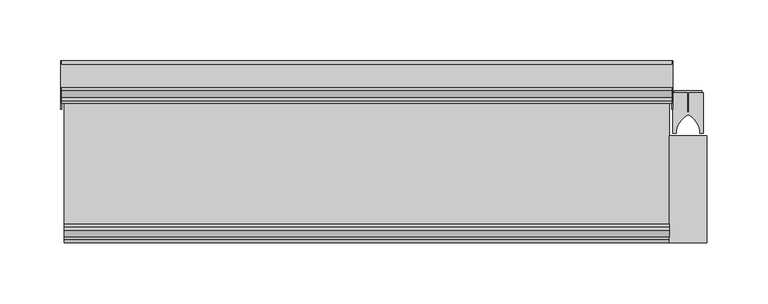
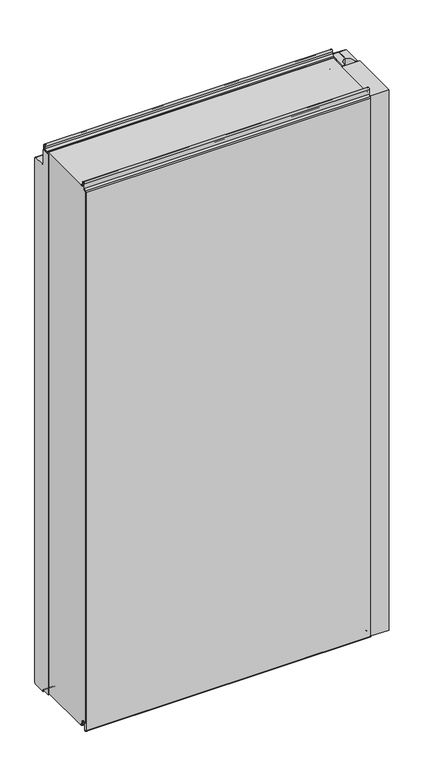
"""IFC4 building model written with IfcOpenShell, lengths in millimetres: plate geometry, Fronttop : Fronttop 150/1000."""

from ifc_helpers import new_model, si_unit, point, frame, frame_2d, origin, origin_with_axes, place, context, project, spatial, polyline, circle_curve, trimmed, segment, composite_curve, outline, extrude, source, transform, mapped, element, save
from ifc_brep_helpers import plane_surface, cylinder_surface, revolved_surface, advanced_brep


def plate_d80518ba(model_context):
    return source(origin(), model_context, "Body", "SolidModel", [
        advanced_brep(
        [(-251.5, 124.0, 1008.0), (-251.5, 121.0, 1008.0), (-251.5, 121.0, 1004.0), (-251.5, 117.0, 1000.0), (-251.5, 115.0, 1000.0), (-251.5, 115.0, 1001.0), (-251.5, 117.0, 1001.0), (-251.5, 120.0, 1004.0), (-251.5, 120.0, 1008.0), (-251.5, 125.0, 1008.0), (-251.5, 125.0, 1000.0), (-251.5, 124.0, 1000.0), (251.5, 125.0, 1008.0), (251.5, 120.0, 1008.0), (251.5, 120.0, 1004.0), (251.5, 117.0, 1001.0), (251.5, 115.0, 1001.0), (251.5, 115.0, 1000.0), (251.5, 117.0, 1000.0), (251.5, 121.0, 1004.0), (251.5, 121.0, 1008.0), (251.5, 124.0, 1008.0), (251.5, 124.0, 1000.0), (251.5, 125.0, 1000.0), (-251.5, 117.0, 2.0), (251.5, 117.0, 2.0), (251.5, 115.0, 2.0), (-251.5, 115.0, 2.0), (-251.5, 119.0, 4.0), (251.5, 119.0, 4.0), (-251.5, 119.0, 8.0), (251.5, 119.0, 8.0), (-251.5, 126.0, 8.0), (251.5, 126.0, 8.0), (-251.5, 126.0, 0.0), (251.5, 126.0, 0.0), (-251.5, 129.0, -3.0), (251.5, 129.0, -3.0), (-251.5, 125.0, -3.0), (-252.5, 125.0, -3.0), (-252.5, 147.0, -3.0), (-251.5, 147.0, -3.0), (251.5, 147.0, -3.0), (252.5, 147.0, -3.0), (252.5, 125.0, -3.0), (251.5, 125.0, -3.0), (-251.5, 150.0, 0.0), (251.5, 150.0, 0.0), (-252.5, 150.0, 0.0), (-252.5, 150.0, 969.0), (-251.5, 150.0, 969.0), (251.5, 150.0, 969.0), (252.5, 150.0, 969.0), (252.5, 150.0, 0.0), (-251.5, 147.0, 972.0), (251.5, 147.0, 972.0), (-252.5, 147.0, 972.0), (-252.5, 128.0, 972.0), (-251.5, 128.0, 972.0), (251.5, 128.0, 972.0), (252.5, 128.0, 972.0), (252.5, 147.0, 972.0), (-251.5, 125.0, 975.0), (251.5, 125.0, 975.0), (-252.5, 125.0, 975.0), (-252.5, 125.0, 1000.0), (252.5, 125.0, 1000.0), (252.5, 125.0, 975.0), (-251.5, 124.0, 975.0), (251.5, 124.0, 975.0), (-251.5, 128.0, 971.0), (251.5, 128.0, 971.0), (-251.5, 147.0, 971.0), (251.5, 147.0, 971.0), (-251.5, 149.0, 969.0), (251.5, 149.0, 969.0), (-251.5, 149.0, 0.0), (251.5, 149.0, 0.0), (-251.5, 147.0, -2.0), (251.5, 147.0, -2.0), (-251.5, 129.0, -2.0), (251.5, 129.0, -2.0), (-251.5, 127.0, 0.0), (251.5, 127.0, 0.0), (-251.5, 127.0, 8.0), (251.5, 127.0, 8.0), (-251.5, 118.0, 8.0), (251.5, 118.0, 8.0), (-251.5, 118.0, 4.0), (251.5, 118.0, 4.0), (-251.5, 117.0, 3.0), (251.5, 117.0, 3.0), (-251.5, 115.0, 3.0), (251.5, 115.0, 3.0), (252.5, 110.0, 1000.0), (252.5, 110.0, 0.0), (252.5, 125.0, 0.0), (251.5, 125.0, 0.0), (251.5, 110.0, 0.0), (251.5, 110.0, 1000.0), (-252.5, 125.0, 0.0), (-252.5, 110.0, 0.0), (-252.5, 110.0, 1000.0), (-251.5, 110.0, 1000.0), (-251.5, 110.0, 0.0), (-251.5, 125.0, 0.0)],
        [
            (0, 1, circle_curve(frame((-251.5, 122.5, 1008.0), z_axis=(1.0, 0.0, 0.0), x_axis=(0.0, -1.0, 0.0)), 1.5)),
            (1, 2),
            (2, 3, circle_curve(frame((-251.5, 117.0, 1004.0), z_axis=(-1.0, 0.0, 0.0), x_axis=(0.0, -1.0, 0.0)), 4.0)),
            (3, 4),
            (4, 5),
            (5, 6),
            (6, 7, circle_curve(frame((-251.5, 117.0, 1004.0), z_axis=(1.0, 0.0, 0.0), x_axis=(0.0, -1.0, 0.0)), 3.0)),
            (7, 8),
            (8, 9, circle_curve(frame((-251.5, 122.5, 1008.0), z_axis=(-1.0, 0.0, 0.0), x_axis=(0.0, -1.0, 0.0)), 2.5)),
            (9, 10),
            (10, 11),
            (11, 0),
            (12, 13, circle_curve(frame((251.5, 122.5, 1008.0), z_axis=(1.0, 0.0, 0.0), x_axis=(0.0, -1.0, 0.0)), 2.5)),
            (13, 14),
            (14, 15, circle_curve(frame((251.5, 117.0, 1004.0), z_axis=(-1.0, 0.0, 0.0), x_axis=(0.0, -1.0, 0.0)), 3.0)),
            (15, 16),
            (16, 17),
            (17, 18),
            (18, 19, circle_curve(frame((251.5, 117.0, 1004.0), z_axis=(1.0, 0.0, 0.0), x_axis=(0.0, -1.0, 0.0)), 4.0)),
            (19, 20),
            (20, 21, circle_curve(frame((251.5, 122.5, 1008.0), z_axis=(-1.0, 0.0, 0.0), x_axis=(0.0, -1.0, 0.0)), 1.5)),
            (21, 22),
            (22, 23),
            (23, 12),
            (24, 25),
            (25, 26),
            (26, 27),
            (27, 24),
            (24, 28, circle_curve(frame((-251.5, 117.0, 4.0), z_axis=(1.0, 0.0, 0.0), x_axis=(0.0, -1.0, 0.0)), 2.0)),
            (28, 29),
            (29, 25, circle_curve(frame((251.5, 117.0, 4.0), z_axis=(-1.0, 0.0, 0.0), x_axis=(0.0, -1.0, 0.0)), 2.0)),
            (28, 30),
            (30, 31),
            (31, 29),
            (30, 32, circle_curve(frame((-251.5, 122.5, 8.0), z_axis=(-1.0, 0.0, 0.0), x_axis=(0.0, -1.0, 0.0)), 3.5)),
            (32, 33),
            (33, 31, circle_curve(frame((251.5, 122.5, 8.0), z_axis=(1.0, 0.0, 0.0), x_axis=(0.0, -1.0, 0.0)), 3.5)),
            (32, 34),
            (34, 35),
            (35, 33),
            (34, 36, circle_curve(frame((-251.5, 129.0, 0.0), z_axis=(1.0, 0.0, 0.0), x_axis=(0.0, -1.0, 0.0)), 3.0)),
            (36, 37),
            (37, 35, circle_curve(frame((251.5, 129.0, 0.0), z_axis=(-1.0, 0.0, 0.0), x_axis=(0.0, -1.0, 0.0)), 3.0)),
            (36, 38),
            (38, 39),
            (39, 40),
            (40, 41),
            (41, 42),
            (42, 43),
            (43, 44),
            (44, 45),
            (45, 37),
            (41, 46, circle_curve(frame((-251.5, 147.0, 0.0), z_axis=(1.0, 0.0, 0.0), x_axis=(0.0, -1.0, 0.0)), 3.0)),
            (46, 47),
            (47, 42, circle_curve(frame((251.5, 147.0, 0.0), z_axis=(-1.0, 0.0, 0.0), x_axis=(0.0, -1.0, 0.0)), 3.0)),
            (46, 48),
            (48, 49),
            (49, 50),
            (50, 51),
            (51, 52),
            (52, 53),
            (53, 47),
            (50, 54, circle_curve(frame((-251.5, 147.0, 969.0), z_axis=(1.0, 0.0, 0.0), x_axis=(0.0, -1.0, 0.0)), 3.0)),
            (54, 55),
            (55, 51, circle_curve(frame((251.5, 147.0, 969.0), z_axis=(-1.0, 0.0, 0.0), x_axis=(0.0, -1.0, 0.0)), 3.0)),
            (54, 56),
            (56, 57),
            (57, 58),
            (58, 59),
            (59, 60),
            (60, 61),
            (61, 55),
            (58, 62, circle_curve(frame((-251.5, 128.0, 975.0), z_axis=(-1.0, 0.0, 0.0), x_axis=(0.0, -1.0, 0.0)), 3.0)),
            (62, 63),
            (63, 59, circle_curve(frame((251.5, 128.0, 975.0), z_axis=(1.0, 0.0, 0.0), x_axis=(0.0, -1.0, 0.0)), 3.0)),
            (62, 64),
            (64, 65),
            (65, 10),
            (9, 12),
            (23, 66),
            (66, 67),
            (67, 63),
            (8, 13),
            (7, 14),
            (6, 15),
            (5, 16),
            (4, 17),
            (4, 3),
            (3, 18),
            (18, 17),
            (2, 19),
            (1, 20),
            (0, 21),
            (11, 68),
            (68, 69),
            (69, 22),
            (68, 70, circle_curve(frame((-251.5, 128.0, 975.0), z_axis=(1.0, 0.0, 0.0), x_axis=(0.0, -1.0, 0.0)), 4.0)),
            (70, 71),
            (71, 69, circle_curve(frame((251.5, 128.0, 975.0), z_axis=(-1.0, 0.0, 0.0), x_axis=(0.0, -1.0, 0.0)), 4.0)),
            (70, 72),
            (72, 73),
            (73, 71),
            (72, 74, circle_curve(frame((-251.5, 147.0, 969.0), z_axis=(-1.0, 0.0, 0.0), x_axis=(0.0, -1.0, 0.0)), 2.0)),
            (74, 75),
            (75, 73, circle_curve(frame((251.5, 147.0, 969.0), z_axis=(1.0, 0.0, 0.0), x_axis=(0.0, -1.0, 0.0)), 2.0)),
            (74, 76),
            (76, 77),
            (77, 75),
            (76, 78, circle_curve(frame((-251.5, 147.0, 0.0), z_axis=(-1.0, 0.0, 0.0), x_axis=(0.0, -1.0, 0.0)), 2.0)),
            (78, 79),
            (79, 77, circle_curve(frame((251.5, 147.0, 0.0), z_axis=(1.0, 0.0, 0.0), x_axis=(0.0, -1.0, 0.0)), 2.0)),
            (78, 80),
            (80, 81),
            (81, 79),
            (80, 82, circle_curve(frame((-251.5, 129.0, 0.0), z_axis=(-1.0, 0.0, 0.0), x_axis=(0.0, -1.0, 0.0)), 2.0)),
            (82, 83),
            (83, 81, circle_curve(frame((251.5, 129.0, 0.0), z_axis=(1.0, 0.0, 0.0), x_axis=(0.0, -1.0, 0.0)), 2.0)),
            (82, 84),
            (84, 85),
            (85, 83),
            (84, 86, circle_curve(frame((-251.5, 122.5, 8.0), z_axis=(1.0, 0.0, 0.0), x_axis=(0.0, -1.0, 0.0)), 4.5)),
            (86, 87),
            (87, 85, circle_curve(frame((251.5, 122.5, 8.0), z_axis=(-1.0, 0.0, 0.0), x_axis=(0.0, -1.0, 0.0)), 4.5)),
            (86, 88),
            (88, 89),
            (89, 87),
            (88, 90, circle_curve(frame((-251.5, 117.0, 4.0), z_axis=(-1.0, 0.0, 0.0), x_axis=(0.0, -1.0, 0.0)), 1.0)),
            (90, 91),
            (91, 89, circle_curve(frame((251.5, 117.0, 4.0), z_axis=(1.0, 0.0, 0.0), x_axis=(0.0, -1.0, 0.0)), 1.0)),
            (90, 92),
            (92, 93),
            (93, 91),
            (26, 93),
            (92, 27),
            (66, 94),
            (94, 95),
            (95, 96),
            (96, 44),
            (43, 53, circle_curve(frame((252.5, 147.0, 0.0), z_axis=(1.0, 0.0, 0.0), x_axis=(0.0, 1.0, 0.0)), 3.0)),
            (52, 61, circle_curve(frame((252.5, 147.0, 969.0), z_axis=(1.0, 0.0, 0.0), x_axis=(0.0, 1.0, 0.0)), 3.0)),
            (60, 67, circle_curve(frame((252.5, 128.0, 975.0), z_axis=(-1.0, 0.0, 0.0), x_axis=(0.0, 1.0, 0.0)), 3.0)),
            (45, 97),
            (97, 98),
            (98, 99),
            (99, 17),
            (18, 22),
            (99, 94),
            (98, 95),
            (97, 96),
            (64, 57, circle_curve(frame((-252.5, 128.0, 975.0), z_axis=(1.0, 0.0, 0.0), x_axis=(0.0, 1.0, 0.0)), 3.0)),
            (56, 49, circle_curve(frame((-252.5, 147.0, 969.0), z_axis=(-1.0, 0.0, 0.0), x_axis=(0.0, 1.0, 0.0)), 3.0)),
            (48, 40, circle_curve(frame((-252.5, 147.0, 0.0), z_axis=(-1.0, 0.0, 0.0), x_axis=(0.0, 1.0, 0.0)), 3.0)),
            (39, 100),
            (100, 101),
            (101, 102),
            (102, 65),
            (103, 104),
            (104, 105),
            (105, 38),
            (11, 3),
            (4, 103),
            (102, 103),
            (101, 104),
            (100, 105),
        ],
        [
            plane_surface(frame((-251.5, 0.0, 0.0), z_axis=(-1.0, 0.0, 0.0), x_axis=(0.0, 0.0, 1.0))),
            plane_surface(frame((251.5, 0.0, 0.0), z_axis=(1.0, 0.0, 0.0), x_axis=(0.0, 0.0, 1.0))),
            plane_surface(frame((-251.5, 117.0, 2.0), z_axis=(0.0, 0.0, -1.0), x_axis=(1.0, 0.0, 0.0))),
            cylinder_surface(frame((-251.5, 117.0, 4.0), z_axis=(-1.0, 0.0, 0.0), x_axis=(0.0, -1.0, 0.0)), 2.0),
            plane_surface(frame((-251.5, 119.0, 8.0), z_axis=(0.0, 1.0, 0.0), x_axis=(1.0, 0.0, 0.0))),
            revolved_surface(polyline([(251.5, 119.0, 8.0), (-251.5, 119.0, 8.0)]), (-251.5, 122.5, 8.0), (1.0, 0.0, 0.0)),
            plane_surface(frame((-251.5, 126.0, 0.0), z_axis=(0.0, -1.0, 0.0), x_axis=(1.0, 0.0, 0.0))),
            cylinder_surface(frame((-251.5, 129.0, 0.0), z_axis=(-1.0, 0.0, 0.0), x_axis=(0.0, -1.0, 0.0)), 3.0),
            plane_surface(frame((-251.5, 147.0, -3.0), z_axis=(0.0, 0.0, -1.0), x_axis=(1.0, 0.0, 0.0))),
            cylinder_surface(frame((-251.5, 147.0, 0.0), z_axis=(-1.0, 0.0, 0.0), x_axis=(0.0, -1.0, 0.0)), 3.0),
            plane_surface(frame((-251.5, 150.0, 969.0), z_axis=(0.0, 1.0, 0.0), x_axis=(1.0, 0.0, 0.0))),
            cylinder_surface(frame((-251.5, 147.0, 969.0), z_axis=(-1.0, 0.0, 0.0), x_axis=(0.0, -1.0, 0.0)), 3.0),
            plane_surface(frame((-251.5, 128.0, 972.0), z_axis=(0.0, 0.0, 1.0), x_axis=(1.0, 0.0, 0.0))),
            revolved_surface(polyline([(251.5, 125.0, 975.0), (-251.5, 125.0, 975.0)]), (-251.5, 128.0, 975.0), (1.0, 0.0, 0.0)),
            plane_surface(frame((-251.5, 125.0, 1008.0), z_axis=(0.0, 1.0, 0.0), x_axis=(1.0, 0.0, 0.0))),
            cylinder_surface(frame((-251.5, 122.5, 1008.0), z_axis=(-1.0, 0.0, 0.0), x_axis=(0.0, -1.0, 0.0)), 2.5),
            plane_surface(frame((-251.5, 120.0, 1004.0), z_axis=(0.0, -1.0, 0.0), x_axis=(1.0, 0.0, 0.0))),
            revolved_surface(polyline([(251.5, 114.0, 1004.0), (-251.5, 114.0, 1004.0)]), (-251.5, 117.0, 1004.0), (1.0, 0.0, 0.0)),
            plane_surface(frame((-251.5, 115.0, 1001.0), z_axis=(0.0, 0.0, 1.0), x_axis=(1.0, 0.0, 0.0))),
            plane_surface(frame((-251.5, 115.0, 1000.0), z_axis=(0.0, -1.0, 0.0), x_axis=(1.0, 0.0, 0.0))),
            plane_surface(frame((-251.5, 117.0, 1000.0), z_axis=(0.0, 0.0, -1.0), x_axis=(1.0, 0.0, 0.0))),
            cylinder_surface(frame((-251.5, 117.0, 1004.0), z_axis=(-1.0, 0.0, 0.0), x_axis=(0.0, -1.0, 0.0)), 4.0),
            plane_surface(frame((-251.5, 121.0, 1008.0), z_axis=(0.0, 1.0, 0.0), x_axis=(1.0, 0.0, 0.0))),
            revolved_surface(polyline([(251.5, 121.0, 1008.0), (-251.5, 121.0, 1008.0)]), (-251.5, 122.5, 1008.0), (1.0, 0.0, 0.0)),
            plane_surface(frame((-251.5, 124.0, 975.0), z_axis=(0.0, -1.0, 0.0), x_axis=(1.0, 0.0, 0.0))),
            cylinder_surface(frame((-251.5, 128.0, 975.0), z_axis=(-1.0, 0.0, 0.0), x_axis=(0.0, -1.0, 0.0)), 4.0),
            plane_surface(frame((-251.5, 147.0, 971.0), z_axis=(0.0, 0.0, -1.0), x_axis=(1.0, 0.0, 0.0))),
            revolved_surface(polyline([(251.5, 145.0, 969.0), (-251.5, 145.0, 969.0)]), (-251.5, 147.0, 969.0), (1.0, 0.0, 0.0)),
            plane_surface(frame((-251.5, 149.0, 0.0), z_axis=(0.0, -1.0, 0.0), x_axis=(1.0, 0.0, 0.0))),
            revolved_surface(polyline([(251.5, 145.0, 0.0), (-251.5, 145.0, 0.0)]), (-251.5, 147.0, 0.0), (1.0, 0.0, 0.0)),
            plane_surface(frame((-251.5, 129.0, -2.0), z_axis=(0.0, 0.0, 1.0), x_axis=(1.0, 0.0, 0.0))),
            revolved_surface(polyline([(251.5, 127.0, 0.0), (-251.5, 127.0, 0.0)]), (-251.5, 129.0, 0.0), (1.0, 0.0, 0.0)),
            plane_surface(frame((-251.5, 127.0, 8.0), z_axis=(0.0, 1.0, 0.0), x_axis=(1.0, 0.0, 0.0))),
            cylinder_surface(frame((-251.5, 122.5, 8.0), z_axis=(-1.0, 0.0, 0.0), x_axis=(0.0, -1.0, 0.0)), 4.5),
            plane_surface(frame((-251.5, 118.0, 4.0), z_axis=(0.0, -1.0, 0.0), x_axis=(1.0, 0.0, 0.0))),
            revolved_surface(polyline([(251.5, 116.0, 4.0), (-251.5, 116.0, 4.0)]), (-251.5, 117.0, 4.0), (1.0, 0.0, 0.0)),
            plane_surface(frame((-251.5, 115.0, 3.0), z_axis=(0.0, 0.0, 1.0), x_axis=(1.0, 0.0, 0.0))),
            plane_surface(frame((-251.5, 115.0, 2.0), z_axis=(0.0, -1.0, 0.0), x_axis=(1.0, 0.0, 0.0))),
            plane_surface(frame((252.5, 125.0, 1000.0), z_axis=(1.0, 0.0, 0.0), x_axis=(0.0, -1.0, 0.0))),
            plane_surface(frame((251.5, 125.0, 1000.0), z_axis=(-1.0, 0.0, 0.0), x_axis=(0.0, 1.0, 0.0))),
            plane_surface(frame((252.5, 125.0, 1000.0), z_axis=(0.0, 0.0, 1.0), x_axis=(-1.0, 0.0, 0.0))),
            plane_surface(frame((252.5, 110.0, 1000.0), z_axis=(0.0, -1.0, 0.0), x_axis=(-1.0, 0.0, 0.0))),
            plane_surface(frame((252.5, 110.0, 0.0), z_axis=(0.0, 0.0, -1.0), x_axis=(-1.0, 0.0, 0.0))),
            cylinder_surface(frame((251.5, 147.0, 0.0), z_axis=(1.0, 0.0, 0.0), x_axis=(0.0, 1.0, 0.0)), 3.0),
            cylinder_surface(frame((251.5, 147.0, 969.0), z_axis=(1.0, 0.0, 0.0), x_axis=(0.0, 1.0, 0.0)), 3.0),
            revolved_surface(polyline([(251.5, 131.0, 975.0), (252.5, 131.0, 975.0)]), (251.5, 128.0, 975.0), (-1.0, 0.0, 0.0)),
            plane_surface(frame((-252.5, 125.0, 1000.0), z_axis=(-1.0, 0.0, 0.0), x_axis=(0.0, 1.0, 0.0))),
            plane_surface(frame((-251.5, 125.0, 1000.0), z_axis=(1.0, 0.0, 0.0), x_axis=(0.0, -1.0, 0.0))),
            plane_surface(frame((-251.5, 125.0, 1000.0), z_axis=(0.0, 0.0, 1.0), x_axis=(-1.0, 0.0, 0.0))),
            plane_surface(frame((-251.5, 110.0, 1000.0), z_axis=(0.0, -1.0, 0.0), x_axis=(-1.0, 0.0, 0.0))),
            plane_surface(frame((-251.5, 110.0, 0.0), z_axis=(0.0, 0.0, -1.0), x_axis=(-1.0, 0.0, 0.0))),
            cylinder_surface(frame((-252.5, 147.0, 0.0), z_axis=(1.0, 0.0, 0.0), x_axis=(0.0, 1.0, 0.0)), 3.0),
            cylinder_surface(frame((-252.5, 147.0, 969.0), z_axis=(1.0, 0.0, 0.0), x_axis=(0.0, 1.0, 0.0)), 3.0),
            revolved_surface(polyline([(-252.5, 131.0, 975.0), (-251.5, 131.0, 975.0)]), (-252.5, 128.0, 975.0), (-1.0, 0.0, 0.0)),
            plane_surface(frame((252.5, 125.0, 0.0), z_axis=(0.0, -1.0, 0.0), x_axis=(-1.0, 0.0, 0.0))),
            plane_surface(frame((-251.5, 125.0, 0.0), z_axis=(0.0, -1.0, 0.0), x_axis=(-1.0, 0.0, 0.0))),
        ],
        [
            (0, [[1, 2, 3, 4, 5, 6, 7, 8, 9, 10, 11, 12]]),
            (1, [[13, 14, 15, 16, 17, 18, 19, 20, 21, 22, 23, 24]]),
            (2, [[25, 26, 27, 28]]),
            (3, [[-25, 29, 30, 31]]),
            (4, [[-30, 32, 33, 34]]),
            (5, [[-33, 35, 36, 37]]),
            (6, [[-36, 38, 39, 40]]),
            (7, [[-39, 41, 42, 43]]),
            (8, [[-42, 44, 45, 46, 47, 48, 49, 50, 51, 52]]),
            (9, [[-48, 53, 54, 55]]),
            (10, [[-54, 56, 57, 58, 59, 60, 61, 62]]),
            (11, [[-59, 63, 64, 65]]),
            (12, [[-64, 66, 67, 68, 69, 70, 71, 72]]),
            (13, [[-69, 73, 74, 75]]),
            (14, [[-74, 76, 77, 78, -10, 79, -24, 80, 81, 82]]),
            (15, [[-9, 83, -13, -79]]),
            (16, [[-8, 84, -14, -83]]),
            (17, [[-7, 85, -15, -84]]),
            (18, [[-6, 86, -16, -85]]),
            (19, [[-5, 87, -17, -86]]),
            (20, [[-87, 88, 89, 90]]),
            (21, [[-3, 91, -19, -89]]),
            (22, [[-2, 92, -20, -91]]),
            (23, [[-1, 93, -21, -92]]),
            (24, [[-93, -12, 94, 95, 96, -22]]),
            (25, [[-95, 97, 98, 99]]),
            (26, [[-98, 100, 101, 102]]),
            (27, [[-101, 103, 104, 105]]),
            (28, [[-104, 106, 107, 108]]),
            (29, [[-107, 109, 110, 111]]),
            (30, [[-110, 112, 113, 114]]),
            (31, [[-113, 115, 116, 117]]),
            (32, [[-116, 118, 119, 120]]),
            (33, [[-119, 121, 122, 123]]),
            (34, [[-122, 124, 125, 126]]),
            (35, [[-125, 127, 128, 129]]),
            (36, [[-128, 130, 131, 132]]),
            (37, [[-27, 133, -131, 134]]),
            (38, [[135, 136, 137, 138, -50, 139, -61, 140, -71, 141, -81]]),
            (39, [[142, 143, 144, 145, -90, 146, -96, -99, -102, -105, -108, -111, -114, -117, -120, -123, -126, -129, -132, -133, -26, -31, -34, -37, -40, -43, -52]]),
            (40, [[-135, -80, -23, -146, -18, -145, 147]]),
            (41, [[-136, -147, -144, 148]]),
            (42, [[-137, -148, -143, 149]]),
            (43, [[-139, -49, -55, -62]]),
            (44, [[-140, -60, -65, -72]]),
            (45, [[-141, -70, -75, -82]]),
            (46, [[-77, 150, -67, 151, -57, 152, -46, 153, 154, 155, 156]]),
            (47, [[157, 158, 159, -44, -41, -38, -35, -32, -29, -28, -134, -130, -127, -124, -121, -118, -115, -112, -109, -106, -103, -100, -97, -94, 160, -88, 161]]),
            (48, [[-156, 162, -161, -4, -160, -11, -78]]),
            (49, [[-155, 163, -157, -162]]),
            (50, [[-154, 164, -158, -163]]),
            (51, [[-152, -56, -53, -47]]),
            (52, [[-151, -66, -63, -58]]),
            (53, [[-150, -76, -73, -68]]),
            (54, [[-138, -149, -142, -51]]),
            (55, [[-153, -45, -159, -164]]),
        ],
    ),
        extrude(outline(composite_curve([segment(polyline([(252.4998455, 123.5), (264.25, 123.5), (264.25, 107.5), (265.75, 107.5), (265.75, 123.5), (277.5001545, 123.5), (277.5001545, 90.0), (274.75, 90.0), (274.75, 92.5)]), True, "CONTINUOUS"), segment(trimmed(circle_curve(frame_2d((256.9661979, 89.3183984)), 18.0661619), [point((274.75, 92.5))], [point((265.0, 105.5))], True, "CARTESIAN"), True, "CONTINUOUS"), segment(trimmed(circle_curve(frame_2d((273.0338021, 89.3183984)), 18.0661619), [point((265.0, 105.5))], [point((255.25, 92.5))], True, "CARTESIAN"), True, "CONTINUOUS"), segment(polyline([(255.25, 92.5), (255.25, 90.0), (252.4998455, 90.0), (252.4998455, 123.5)]), True, "CONTINUOUS")], self_intersect=False)), origin_with_axes(), (0.0, 0.0, 1.0), 1000.0),
        extrude(outline(polyline([(280.5, 0.0), (249.5, 0.0), (249.5, 88.0), (280.5, 88.0), (280.5, 0.0)])), origin_with_axes(), (0.0, 0.0, 1.0), 1000.0),
        extrude(outline(polyline([(253.4948846, 125.0), (276.5051154, 125.0), (276.5051154, 123.5), (265.6502496, 123.5), (265.6502496, 109.0759655), (264.35, 109.0759655), (264.35, 123.5), (253.4948846, 123.5), (253.4948846, 125.0)])), origin_with_axes(), (0.0, 0.0, 1.0), 1000.0),
        advanced_brep(
        [(-249.5, 13.0, 1001.0), (-249.5, 15.0, 1001.0), (-249.5, 15.0, 1000.0), (-249.5, 13.0, 1000.0), (-249.5, 9.0, 1004.0), (-249.5, 9.0, 1008.0), (-249.5, 6.0, 1008.0), (-249.5, 6.0, 999.5), (-249.5, 2.1134897, 996.0214069), (-249.5, 1.0, 995.0), (-249.5, 1.0, -0.5), (-249.5, 3.0, -0.5), (-249.5, 3.0, 8.0), (-249.5, 12.0, 8.0), (-249.5, 12.0, 4.0), (-249.5, 13.0, 3.0), (-249.5, 15.0, 3.0), (-249.5, 15.0, 2.0), (-249.5, 13.0, 2.0), (-249.5, 11.0, 4.0), (-249.5, 11.0, 8.0), (-249.5, 4.0, 8.0), (-249.5, 4.0, -0.5), (-249.5, 0.0, -0.5), (-249.5, 0.0, 995.0), (-249.5, 2.220863, 996.9877675), (-249.5, 5.0, 999.5), (-249.5, 5.0, 1008.0), (-249.5, 10.0, 1008.0), (-249.5, 10.0, 1004.0), (249.5, 13.0, 1001.0), (249.5, 10.0, 1004.0), (249.5, 10.0, 1008.0), (249.5, 5.0, 1008.0), (249.5, 5.0, 999.5), (249.5, 2.2239212, 997.0152907), (249.5, 0.0, 995.0), (249.5, 0.0, -0.5), (249.5, 4.0, -0.5), (249.5, 4.0, 8.0), (249.5, 11.0, 8.0), (249.5, 11.0, 4.0), (249.5, 13.0, 2.0), (249.5, 15.0, 2.0), (249.5, 15.0, 3.0), (249.5, 13.0, 3.0), (249.5, 12.0, 4.0), (249.5, 12.0, 8.0), (249.5, 3.0, 8.0), (249.5, 3.0, -0.5), (249.5, 1.0, -0.5), (249.5, 1.0, 995.0), (249.5, 2.1104315, 995.9938837), (249.5, 6.0, 999.5), (249.5, 6.0, 1008.0), (249.5, 9.0, 1008.0), (249.5, 9.0, 1004.0), (249.5, 13.0, 1000.0), (249.5, 15.0, 1000.0), (249.5, 15.0, 1001.0)],
        [
            (0, 1),
            (1, 2),
            (2, 3),
            (3, 4, circle_curve(frame((-249.5, 13.0, 1004.0), z_axis=(-1.0, 0.0, 0.0), x_axis=(0.0, -1.0, 0.0)), 4.0)),
            (4, 5),
            (5, 6, circle_curve(frame((-249.5, 7.5, 1008.0), z_axis=(1.0, 0.0, 0.0), x_axis=(0.0, -1.0, 0.0)), 1.5)),
            (6, 7),
            (7, 8, circle_curve(frame((-249.5, 2.5, 999.5), z_axis=(-1.0, 0.0, 0.0), x_axis=(0.0, -1.0, 0.0)), 3.5)),
            (8, 9, circle_curve(frame((-249.5, 2.0, 995.0), z_axis=(1.0, 0.0, 0.0), x_axis=(0.0, -1.0, 0.0)), 1.0)),
            (9, 10),
            (10, 11, circle_curve(frame((-249.5, 2.0, -0.5), z_axis=(1.0, 0.0, 0.0), x_axis=(0.0, -1.0, 0.0)), 1.0)),
            (11, 12),
            (12, 13, circle_curve(frame((-249.5, 7.5, 8.0), z_axis=(-1.0, 0.0, 0.0), x_axis=(0.0, -1.0, 0.0)), 4.5)),
            (13, 14),
            (14, 15, circle_curve(frame((-249.5, 13.0, 4.0), z_axis=(1.0, 0.0, 0.0), x_axis=(0.0, -1.0, 0.0)), 1.0)),
            (15, 16),
            (16, 17),
            (17, 18),
            (18, 19, circle_curve(frame((-249.5, 13.0, 4.0), z_axis=(-1.0, 0.0, 0.0), x_axis=(0.0, -1.0, 0.0)), 2.0)),
            (19, 20),
            (20, 21, circle_curve(frame((-249.5, 7.5, 8.0), z_axis=(1.0, 0.0, 0.0), x_axis=(0.0, -1.0, 0.0)), 3.5)),
            (21, 22),
            (22, 23, circle_curve(frame((-249.5, 2.0, -0.5), z_axis=(-1.0, 0.0, 0.0), x_axis=(0.0, -1.0, 0.0)), 2.0)),
            (23, 24),
            (24, 25, circle_curve(frame((-249.5, 2.0, 995.0), z_axis=(-1.0, 0.0, 0.0), x_axis=(0.0, -1.0, 0.0)), 2.0)),
            (25, 26, circle_curve(frame((-249.5, 2.5, 999.5), z_axis=(1.0, 0.0, 0.0), x_axis=(0.0, -1.0, 0.0)), 2.5)),
            (26, 27),
            (27, 28, circle_curve(frame((-249.5, 7.5, 1008.0), z_axis=(-1.0, 0.0, 0.0), x_axis=(0.0, -1.0, 0.0)), 2.5)),
            (28, 29),
            (29, 0, circle_curve(frame((-249.5, 13.0, 1004.0), z_axis=(1.0, 0.0, 0.0), x_axis=(0.0, -1.0, 0.0)), 3.0)),
            (30, 31, circle_curve(frame((249.5, 13.0, 1004.0), z_axis=(-1.0, 0.0, 0.0), x_axis=(0.0, -1.0, 0.0)), 3.0)),
            (31, 32),
            (32, 33, circle_curve(frame((249.5, 7.5, 1008.0), z_axis=(1.0, 0.0, 0.0), x_axis=(0.0, -1.0, 0.0)), 2.5)),
            (33, 34),
            (34, 35, circle_curve(frame((249.5, 2.5, 999.5), z_axis=(-1.0, 0.0, 0.0), x_axis=(0.0, -1.0, 0.0)), 2.5)),
            (35, 36, circle_curve(frame((249.5, 2.0, 995.0), z_axis=(1.0, 0.0, 0.0), x_axis=(0.0, -1.0, 0.0)), 2.0)),
            (36, 37),
            (37, 38, circle_curve(frame((249.5, 2.0, -0.5), z_axis=(1.0, 0.0, 0.0), x_axis=(0.0, -1.0, 0.0)), 2.0)),
            (38, 39),
            (39, 40, circle_curve(frame((249.5, 7.5, 8.0), z_axis=(-1.0, 0.0, 0.0), x_axis=(0.0, -1.0, 0.0)), 3.5)),
            (40, 41),
            (41, 42, circle_curve(frame((249.5, 13.0, 4.0), z_axis=(1.0, 0.0, 0.0), x_axis=(0.0, -1.0, 0.0)), 2.0)),
            (42, 43),
            (43, 44),
            (44, 45),
            (45, 46, circle_curve(frame((249.5, 13.0, 4.0), z_axis=(-1.0, 0.0, 0.0), x_axis=(0.0, -1.0, 0.0)), 1.0)),
            (46, 47),
            (47, 48, circle_curve(frame((249.5, 7.5, 8.0), z_axis=(1.0, 0.0, 0.0), x_axis=(0.0, -1.0, 0.0)), 4.5)),
            (48, 49),
            (49, 50, circle_curve(frame((249.5, 2.0, -0.5), z_axis=(-1.0, 0.0, 0.0), x_axis=(0.0, -1.0, 0.0)), 1.0)),
            (50, 51),
            (51, 52, circle_curve(frame((249.5, 2.0, 995.0), z_axis=(-1.0, 0.0, 0.0), x_axis=(0.0, -1.0, 0.0)), 1.0)),
            (52, 53, circle_curve(frame((249.5, 2.5, 999.5), z_axis=(1.0, 0.0, 0.0), x_axis=(0.0, -1.0, 0.0)), 3.5)),
            (53, 54),
            (54, 55, circle_curve(frame((249.5, 7.5, 1008.0), z_axis=(-1.0, 0.0, 0.0), x_axis=(0.0, -1.0, 0.0)), 1.5)),
            (55, 56),
            (56, 57, circle_curve(frame((249.5, 13.0, 1004.0), z_axis=(1.0, 0.0, 0.0), x_axis=(0.0, -1.0, 0.0)), 4.0)),
            (57, 58),
            (58, 59),
            (59, 30),
            (0, 30),
            (59, 1),
            (58, 2),
            (57, 3),
            (56, 4),
            (55, 5),
            (54, 6),
            (53, 7),
            (52, 8),
            (51, 9),
            (50, 10),
            (49, 11),
            (48, 12),
            (47, 13),
            (46, 14),
            (45, 15),
            (44, 16),
            (43, 17),
            (42, 18),
            (41, 19),
            (40, 20),
            (39, 21),
            (38, 22),
            (37, 23),
            (36, 24),
            (35, 25),
            (34, 26),
            (33, 27),
            (32, 28),
            (31, 29),
        ],
        [
            plane_surface(frame((-249.5, 0.0, 0.0), z_axis=(-1.0, 0.0, 0.0), x_axis=(0.0, 0.0, 1.0))),
            plane_surface(frame((249.5, 0.0, 0.0), z_axis=(1.0, 0.0, 0.0), x_axis=(0.0, 0.0, 1.0))),
            plane_surface(frame((-249.5, 13.0, 1001.0), z_axis=(0.0, 0.0, 1.0), x_axis=(1.0, 0.0, 0.0))),
            plane_surface(frame((-249.5, 15.0, 1001.0), z_axis=(0.0, 1.0, 0.0), x_axis=(1.0, 0.0, 0.0))),
            plane_surface(frame((-249.5, 15.0, 1000.0), z_axis=(0.0, 0.0, -1.0), x_axis=(1.0, 0.0, 0.0))),
            cylinder_surface(frame((-249.5, 13.0, 1004.0), z_axis=(-1.0, 0.0, 0.0), x_axis=(0.0, -1.0, 0.0)), 4.0),
            plane_surface(frame((-249.5, 9.0, 1004.0), z_axis=(0.0, -1.0, 0.0), x_axis=(1.0, 0.0, 0.0))),
            revolved_surface(polyline([(249.5, 6.0, 1008.0), (-249.5, 6.0, 1008.0)]), (-249.5, 7.5, 1008.0), (1.0, 0.0, 0.0)),
            plane_surface(frame((-249.5, 6.0, 1008.0), z_axis=(0.0, 1.0, 0.0), x_axis=(1.0, 0.0, 0.0))),
            cylinder_surface(frame((-249.5, 2.5, 999.5), z_axis=(-1.0, 0.0, 0.0), x_axis=(0.0, -1.0, 0.0)), 3.5),
            revolved_surface(polyline([(249.5, 1.0, 995.0), (-249.5, 1.0, 995.0)]), (-249.5, 2.0, 995.0), (1.0, 0.0, 0.0)),
            plane_surface(frame((-249.5, 1.0, 995.0), z_axis=(0.0, 1.0, 0.0), x_axis=(1.0, 0.0, 0.0))),
            revolved_surface(polyline([(249.5, 1.0, -0.5), (-249.5, 1.0, -0.5)]), (-249.5, 2.0, -0.5), (1.0, 0.0, 0.0)),
            plane_surface(frame((-249.5, 3.0, -0.5), z_axis=(0.0, -1.0, 0.0), x_axis=(1.0, 0.0, 0.0))),
            cylinder_surface(frame((-249.5, 7.5, 8.0), z_axis=(-1.0, 0.0, 0.0), x_axis=(0.0, -1.0, 0.0)), 4.5),
            plane_surface(frame((-249.5, 12.0, 8.0), z_axis=(0.0, 1.0, 0.0), x_axis=(1.0, 0.0, 0.0))),
            revolved_surface(polyline([(249.5, 12.0, 4.0), (-249.5, 12.0, 4.0)]), (-249.5, 13.0, 4.0), (1.0, 0.0, 0.0)),
            plane_surface(frame((-249.5, 13.0, 3.0), z_axis=(0.0, 0.0, 1.0), x_axis=(1.0, 0.0, 0.0))),
            plane_surface(frame((-249.5, 15.0, 3.0), z_axis=(0.0, 1.0, 0.0), x_axis=(1.0, 0.0, 0.0))),
            plane_surface(frame((-249.5, 15.0, 2.0), z_axis=(0.0, 0.0, -1.0), x_axis=(1.0, 0.0, 0.0))),
            cylinder_surface(frame((-249.5, 13.0, 4.0), z_axis=(-1.0, 0.0, 0.0), x_axis=(0.0, -1.0, 0.0)), 2.0),
            plane_surface(frame((-249.5, 11.0, 4.0), z_axis=(0.0, -1.0, 0.0), x_axis=(1.0, 0.0, 0.0))),
            revolved_surface(polyline([(249.5, 4.0, 8.0), (-249.5, 4.0, 8.0)]), (-249.5, 7.5, 8.0), (1.0, 0.0, 0.0)),
            plane_surface(frame((-249.5, 4.0, 8.0), z_axis=(0.0, 1.0, 0.0), x_axis=(1.0, 0.0, 0.0))),
            cylinder_surface(frame((-249.5, 2.0, -0.5), z_axis=(-1.0, 0.0, 0.0), x_axis=(0.0, -1.0, 0.0)), 2.0),
            plane_surface(frame((-249.5, 0.0, -0.5), z_axis=(0.0, -1.0, 0.0), x_axis=(1.0, 0.0, 0.0))),
            cylinder_surface(frame((-249.5, 2.0, 995.0), z_axis=(-1.0, 0.0, 0.0), x_axis=(0.0, -1.0, 0.0)), 2.0),
            revolved_surface(polyline([(249.5, 0.0, 999.5), (-249.5, 0.0, 999.5)]), (-249.5, 2.5, 999.5), (1.0, 0.0, 0.0)),
            plane_surface(frame((-249.5, 5.0, 999.5), z_axis=(0.0, -1.0, 0.0), x_axis=(1.0, 0.0, 0.0))),
            cylinder_surface(frame((-249.5, 7.5, 1008.0), z_axis=(-1.0, 0.0, 0.0), x_axis=(0.0, -1.0, 0.0)), 2.5),
            plane_surface(frame((-249.5, 10.0, 1008.0), z_axis=(0.0, 1.0, 0.0), x_axis=(1.0, 0.0, 0.0))),
            revolved_surface(polyline([(249.5, 10.0, 1004.0), (-249.5, 10.0, 1004.0)]), (-249.5, 13.0, 1004.0), (1.0, 0.0, 0.0)),
        ],
        [
            (0, [[1, 2, 3, 4, 5, 6, 7, 8, 9, 10, 11, 12, 13, 14, 15, 16, 17, 18, 19, 20, 21, 22, 23, 24, 25, 26, 27, 28, 29, 30]]),
            (1, [[31, 32, 33, 34, 35, 36, 37, 38, 39, 40, 41, 42, 43, 44, 45, 46, 47, 48, 49, 50, 51, 52, 53, 54, 55, 56, 57, 58, 59, 60]]),
            (2, [[-1, 61, -60, 62]]),
            (3, [[-2, -62, -59, 63]]),
            (4, [[-3, -63, -58, 64]]),
            (5, [[-4, -64, -57, 65]]),
            (6, [[-5, -65, -56, 66]]),
            (7, [[-6, -66, -55, 67]]),
            (8, [[-7, -67, -54, 68]]),
            (9, [[-8, -68, -53, 69]]),
            (10, [[-9, -69, -52, 70]]),
            (11, [[-10, -70, -51, 71]]),
            (12, [[-11, -71, -50, 72]]),
            (13, [[-12, -72, -49, 73]]),
            (14, [[-13, -73, -48, 74]]),
            (15, [[-14, -74, -47, 75]]),
            (16, [[-15, -75, -46, 76]]),
            (17, [[-16, -76, -45, 77]]),
            (18, [[-17, -77, -44, 78]]),
            (19, [[-18, -78, -43, 79]]),
            (20, [[-19, -79, -42, 80]]),
            (21, [[-20, -80, -41, 81]]),
            (22, [[-21, -81, -40, 82]]),
            (23, [[-22, -82, -39, 83]]),
            (24, [[-23, -83, -38, 84]]),
            (25, [[-24, -84, -37, 85]]),
            (26, [[-25, -85, -36, 86]]),
            (27, [[-26, -86, -35, 87]]),
            (28, [[-27, -87, -34, 88]]),
            (29, [[-28, -88, -33, 89]]),
            (30, [[-29, -89, -32, 90]]),
            (31, [[-30, -90, -31, -61]]),
        ],
    ),
        extrude(outline(composite_curve([segment(polyline([(15.0, 3.0), (13.0, 3.0)]), True, "CONTINUOUS"), segment(trimmed(circle_curve(frame_2d((13.0, 4.0)), 1.0), [point((13.0, 3.0))], [point((12.0, 4.0))], False, "CARTESIAN"), True, "CONTINUOUS"), segment(polyline([(12.0, 4.0), (12.0, 8.0)]), True, "CONTINUOUS"), segment(trimmed(circle_curve(frame_2d((7.5, 8.0)), 4.5), [point((12.0, 8.0))], [point((3.0, 8.0))], True, "CARTESIAN"), True, "CONTINUOUS"), segment(polyline([(3.0, 8.0), (3.0, -0.5)]), True, "CONTINUOUS"), segment(trimmed(circle_curve(frame_2d((2.0, -0.5)), 1.0), [point((3.0, -0.5))], [point((1.0, -0.5))], False, "CARTESIAN"), True, "CONTINUOUS"), segment(polyline([(1.0, -0.5), (1.0, 995.0278643)]), True, "CONTINUOUS"), segment(trimmed(circle_curve(frame_2d((2.0, 995.0278643)), 1.0), [point((1.0, 995.0278643))], [point((2.1111111, 996.0216723))], False, "CARTESIAN"), True, "CONTINUOUS"), segment(trimmed(circle_curve(frame_2d((2.5, 999.5)), 3.5), [point((2.1111111, 996.0216723))], [point((6.0, 999.5))], True, "CARTESIAN"), True, "CONTINUOUS"), segment(polyline([(6.0, 999.5), (6.0, 1008.0)]), True, "CONTINUOUS"), segment(trimmed(circle_curve(frame_2d((7.5, 1008.0)), 1.5), [point((6.0, 1008.0))], [point((9.0, 1008.0))], False, "CARTESIAN"), True, "CONTINUOUS"), segment(polyline([(9.0, 1008.0), (9.0, 1004.0)]), True, "CONTINUOUS"), segment(trimmed(circle_curve(frame_2d((13.0, 1004.0)), 4.0), [point((9.0, 1004.0))], [point((13.0, 1000.0))], True, "CARTESIAN"), True, "CONTINUOUS"), segment(polyline([(13.0, 1000.0), (117.0, 1000.0)]), True, "CONTINUOUS"), segment(trimmed(circle_curve(frame_2d((117.0, 1004.0)), 4.0), [point((117.0, 1000.0))], [point((121.0, 1004.0))], True, "CARTESIAN"), True, "CONTINUOUS"), segment(polyline([(121.0, 1004.0), (121.0, 1008.0)]), True, "CONTINUOUS"), segment(trimmed(circle_curve(frame_2d((122.5, 1008.0)), 1.5), [point((121.0, 1008.0))], [point((124.0, 1008.0))], False, "CARTESIAN"), True, "CONTINUOUS"), segment(polyline([(124.0, 1008.0), (124.0, 975.0)]), True, "CONTINUOUS"), segment(trimmed(circle_curve(frame_2d((128.0, 975.0)), 4.0), [point((124.0, 975.0))], [point((128.0, 971.0))], True, "CARTESIAN"), True, "CONTINUOUS"), segment(polyline([(128.0, 971.0), (147.0, 971.0)]), True, "CONTINUOUS"), segment(trimmed(circle_curve(frame_2d((147.0, 969.0)), 2.0), [point((147.0, 971.0))], [point((149.0, 969.0))], False, "CARTESIAN"), True, "CONTINUOUS"), segment(polyline([(149.0, 969.0), (149.0, 0.0)]), True, "CONTINUOUS"), segment(trimmed(circle_curve(frame_2d((147.0, 0.0)), 2.0), [point((149.0, 0.0))], [point((147.0, -2.0))], False, "CARTESIAN"), True, "CONTINUOUS"), segment(polyline([(147.0, -2.0), (129.0, -2.0)]), True, "CONTINUOUS"), segment(trimmed(circle_curve(frame_2d((129.0, 0.0)), 2.0), [point((129.0, -2.0))], [point((127.0, 0.0))], False, "CARTESIAN"), True, "CONTINUOUS"), segment(polyline([(127.0, 0.0), (127.0, 8.0)]), True, "CONTINUOUS"), segment(trimmed(circle_curve(frame_2d((122.5, 8.0)), 4.5), [point((127.0, 8.0))], [point((118.0, 8.0))], True, "CARTESIAN"), True, "CONTINUOUS"), segment(polyline([(118.0, 8.0), (118.0, 4.0)]), True, "CONTINUOUS"), segment(trimmed(circle_curve(frame_2d((117.0, 4.0)), 1.0), [point((118.0, 4.0))], [point((117.0, 3.0))], False, "CARTESIAN"), True, "CONTINUOUS"), segment(polyline([(117.0, 3.0), (115.0, 3.0), (115.0, 0.0), (15.0, 0.0), (15.0, 3.0)]), True, "CONTINUOUS")], self_intersect=False)), frame((-249.5, 0.0, 0.0), z_axis=(1.0, 0.0, 0.0), x_axis=(0.0, 1.0, 0.0)), (0.0, 0.0, 1.0), 499.0),
    ])


if __name__ == "__main__":
    model = new_model("IFC4")
    model_context = context("Model", 3, world=origin())
    ifc_project = project(units=[si_unit("LENGTHUNIT", "METRE", prefix="MILLI")], contexts=[model_context])
    site = spatial("IfcSite", under=ifc_project)
    building = spatial("IfcBuilding", under=site)
    placement = place(None, origin())
    plate_shape = plate_d80518ba(model_context)
    element("IfcPlate", 1, ObjectType="Fronttop : Fronttop 150/1000", at=placement, inside=building, context=model_context, shape_type="MappedRepresentation", body=[
        mapped(plate_shape, transform((0.0, 0.0, 0.0), x_axis=(1.0, 0.0, 0.0), y_axis=(0.0, 1.0, 0.0), z_axis=(0.0, 0.0, 1.0))),
    ])
    save(model, "model.ifc")
